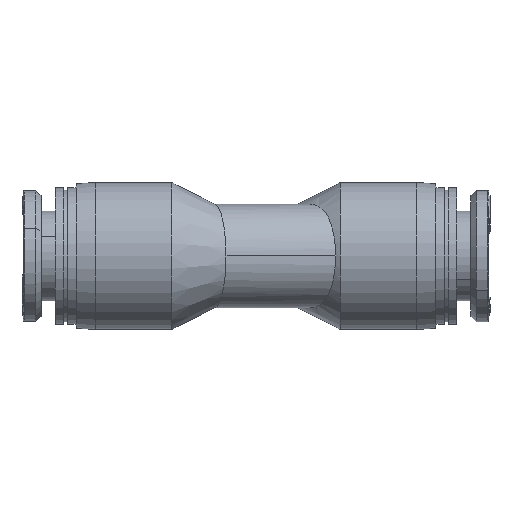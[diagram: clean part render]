
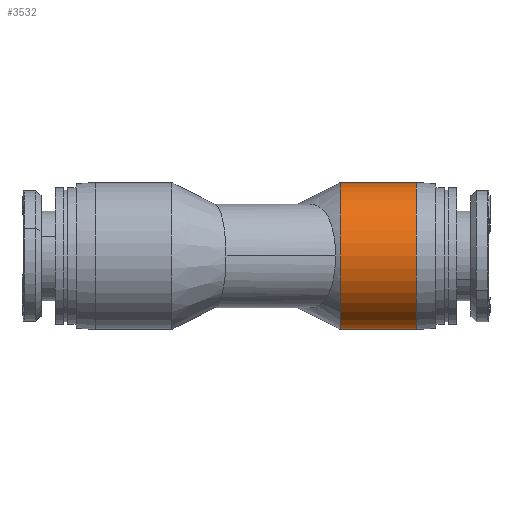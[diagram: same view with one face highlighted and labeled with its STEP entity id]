
A CAD part, left-side view. The second image highlights one B-rep face of the part: STEP entity #3532.
In plain terms, the highlighted cylindrical face has radius 5.6 mm (diameter 11.2 mm), a partial arc.
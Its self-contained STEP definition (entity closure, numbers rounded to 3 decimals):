
#226 = CARTESIAN_POINT ( 'NONE',  ( 0.001, 5.794, 5.6 ) ) ;
#396 = LINE ( 'NONE', #5047, #3458 ) ;
#652 = EDGE_LOOP ( 'NONE', ( #4888, #738, #4332, #4828 ) ) ;
#738 = ORIENTED_EDGE ( 'NONE', *, *, #5484, .T. ) ;
#890 = DIRECTION ( 'NONE',  ( 0., 0., 1. ) ) ;
#910 = CARTESIAN_POINT ( 'NONE',  ( 0.001, -0.006, 0. ) ) ;
#935 = EDGE_CURVE ( 'NONE', #2855, #2092, #5395, .T. ) ;
#1133 = FACE_OUTER_BOUND ( 'NONE', #652, .T. ) ;
#1264 = AXIS2_PLACEMENT_3D ( 'NONE', #3751, #2316, #5174 ) ;
#1308 = DIRECTION ( 'NONE',  ( 0., -1., 0. ) ) ;
#1487 = CARTESIAN_POINT ( 'NONE',  ( 0.001, -0.006, -5.6 ) ) ;
#2092 = VERTEX_POINT ( 'NONE', #3116 ) ;
#2234 = EDGE_CURVE ( 'NONE', #5014, #2092, #5600, .T. ) ;
#2316 = DIRECTION ( 'NONE',  ( 0., -1., 0. ) ) ;
#2360 = DIRECTION ( 'NONE',  ( 0., 0., 1. ) ) ;
#2555 = CIRCLE ( 'NONE', #3957, 5.6 ) ;
#2839 = CARTESIAN_POINT ( 'NONE',  ( 0.001, 5.794, -5.6 ) ) ;
#2849 = DIRECTION ( 'NONE',  ( 0., 1., 0. ) ) ;
#2855 = VERTEX_POINT ( 'NONE', #1487 ) ;
#3116 = CARTESIAN_POINT ( 'NONE',  ( 0.001, -0.006, 5.6 ) ) ;
#3284 = DIRECTION ( 'NONE',  ( 0., -1., 0. ) ) ;
#3309 = DIRECTION ( 'NONE',  ( 0., 1., 0. ) ) ;
#3458 = VECTOR ( 'NONE', #1308, 1000. ) ;
#3532 = ADVANCED_FACE ( 'NONE', ( #1133 ), #4997, .T. ) ;
#3546 = AXIS2_PLACEMENT_3D ( 'NONE', #910, #3309, #890 ) ;
#3673 = EDGE_CURVE ( 'NONE', #6060, #5014, #2555, .T. ) ;
#3751 = CARTESIAN_POINT ( 'NONE',  ( 0.001, -3.105, 0. ) ) ;
#3957 = AXIS2_PLACEMENT_3D ( 'NONE', #5650, #2849, #2360 ) ;
#4332 = ORIENTED_EDGE ( 'NONE', *, *, #935, .T. ) ;
#4569 = VECTOR ( 'NONE', #3284, 1000. ) ;
#4828 = ORIENTED_EDGE ( 'NONE', *, *, #2234, .F. ) ;
#4888 = ORIENTED_EDGE ( 'NONE', *, *, #3673, .F. ) ;
#4997 = CYLINDRICAL_SURFACE ( 'NONE', #1264, 5.6 ) ;
#5014 = VERTEX_POINT ( 'NONE', #226 ) ;
#5047 = CARTESIAN_POINT ( 'NONE',  ( 0.001, -3.105, -5.6 ) ) ;
#5174 = DIRECTION ( 'NONE',  ( 0., 0., 1. ) ) ;
#5395 = CIRCLE ( 'NONE', #3546, 5.6 ) ;
#5484 = EDGE_CURVE ( 'NONE', #6060, #2855, #396, .T. ) ;
#5600 = LINE ( 'NONE', #6152, #4569 ) ;
#5650 = CARTESIAN_POINT ( 'NONE',  ( 0.001, 5.794, 0. ) ) ;
#6060 = VERTEX_POINT ( 'NONE', #2839 ) ;
#6152 = CARTESIAN_POINT ( 'NONE',  ( 0.001, -3.105, 5.6 ) ) ;
